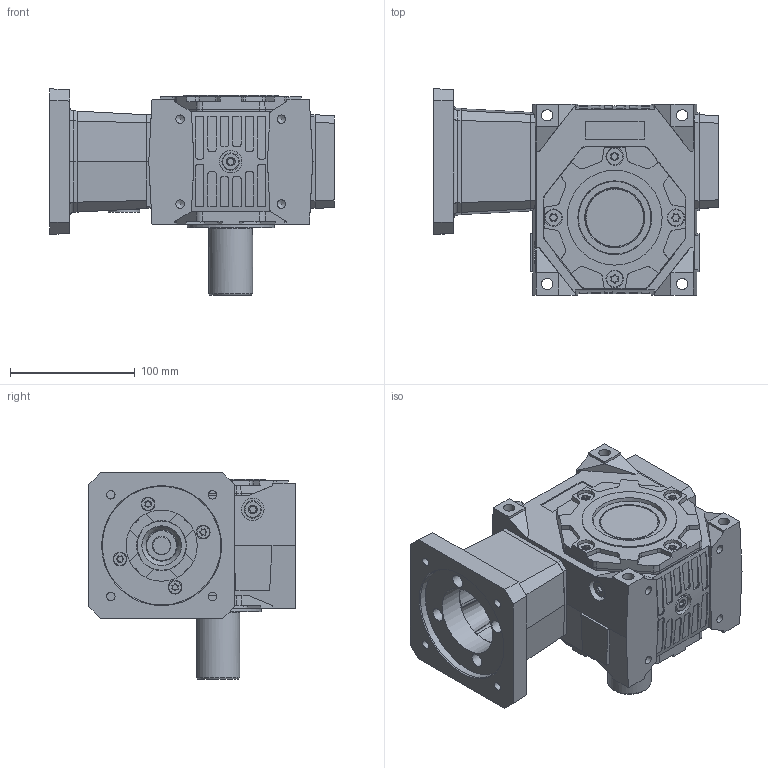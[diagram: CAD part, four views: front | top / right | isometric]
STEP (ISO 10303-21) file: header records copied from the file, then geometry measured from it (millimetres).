
FILE_DESCRIPTION( ( 'STEP AP203' ), '1' );
FILE_NAME( ' ', ' ', ( ' ' ), ( ' ' ), 'XStep 1.0', ' ', ' ' );
FILE_SCHEMA( ( 'CONFIG_CONTROL_DESIGN' ) );
Length unit declared in the file: millimetre
Products named in the file (33): 1; 2; 3; 4; 5; 6; 7; 8; 9; 10; 11; 12; 13; 14; 15; 16; 17; 18; 19; 20; 21; 22; 23; 24; 25; 26; 27; 28; 29; 30; 31; 32; 33
Bounding box: 228 x 165.34 x 165.34 mm (x, y, z)
Volume: 1509261.4 mm3; surface area: 409229.6 mm2
Topology: 33 solids, 33 shells, 1620 faces, 4056 edges, 2548 vertices
Faces by surface type: plane 686, cylinder 643, cone 123, bspline 68, torus 51, sphere 49
Full cylindrical faces by diameter (mm): 4 x6, 4.6 x6, 5 x12, 6 x12, 6.6 x4, 6.75 x24, 7 x8, 8 x4, 8.5 x4, 9 x8, 9.73 x4, 10 x12, 10.25 x1, 11 x8, 13 x4, 14 x8, 15 x1, 15.5 x2, 17 x1, 18 x5, 20 x1, 20.7 x1, 23.9 x1, 24 x1, 25 x3, 26.51 x1, 30 x1, 33 x1, 34 x1, 35 x3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
Entity records: 58323 total; most frequent: CARTESIAN_POINT 19578, DIRECTION 8074, ORIENTED_EDGE 7188, EDGE_CURVE 3594, AXIS2_PLACEMENT_3D 3201, VERTEX_POINT 2474, EDGE_LOOP 2131, FACE_OUTER_BOUND 1813
